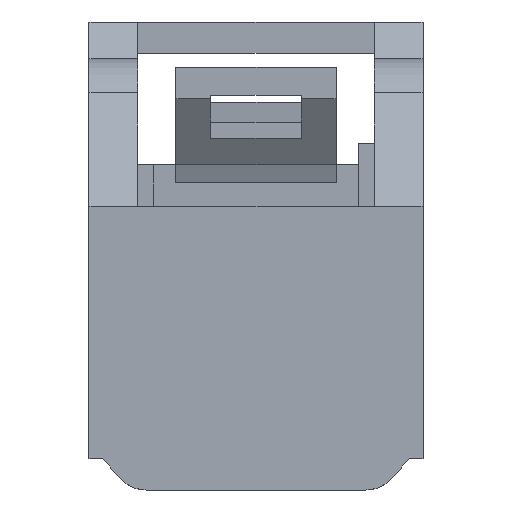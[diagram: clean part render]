
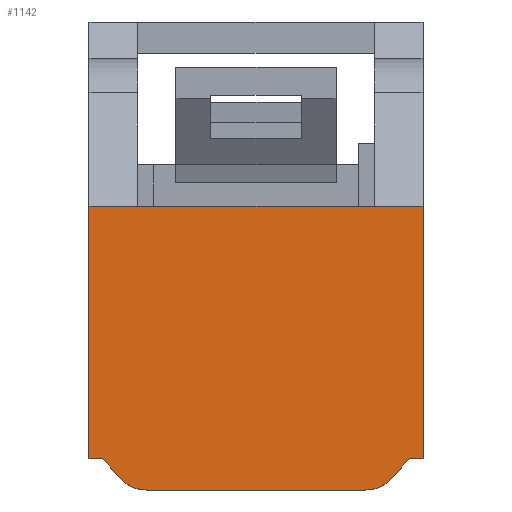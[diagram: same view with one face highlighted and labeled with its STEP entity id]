
A CAD part, left-side view. The second image highlights one B-rep face of the part: STEP entity #1142.
In plain terms, the highlighted planar face has unit normal (-1, 0, 0).
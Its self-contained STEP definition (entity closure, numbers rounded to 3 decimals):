
#1067=AXIS2_PLACEMENT_3D('Plane Axis2P3D',#1064,#1065,#1066) ;
#1071=AXIS2_PLACEMENT_3D('Circle Axis2P3D',#1069,#1070,$) ;
#1118=AXIS2_PLACEMENT_3D('Circle Axis2P3D',#1116,#1117,$) ;
#256=CARTESIAN_POINT('Vertex',(-23.4,-3.8,-3.275)) ;
#259=CARTESIAN_POINT('Line Origine',(-23.4,-3.606,-3.275)) ;
#263=CARTESIAN_POINT('Vertex',(-23.4,-3.411,-3.275)) ;
#284=CARTESIAN_POINT('Vertex',(-23.4,5.411,-3.275)) ;
#287=CARTESIAN_POINT('Line Origine',(-23.4,5.606,-3.275)) ;
#291=CARTESIAN_POINT('Vertex',(-23.4,5.8,-3.275)) ;
#1007=CARTESIAN_POINT('Line Origine',(-23.4,-3.8,0.35)) ;
#1011=CARTESIAN_POINT('Vertex',(-23.4,-3.8,3.975)) ;
#1064=CARTESIAN_POINT('Axis2P3D Location',(-23.4,0.,3.975)) ;
#1069=CARTESIAN_POINT('Axis2P3D Location',(-23.4,-2.155,-3.175)) ;
#1073=CARTESIAN_POINT('Vertex',(-23.4,-2.898,-3.845)) ;
#1075=CARTESIAN_POINT('Vertex',(-23.4,-2.155,-4.175)) ;
#1078=CARTESIAN_POINT('Line Origine',(-23.4,-3.155,-3.56)) ;
#1083=CARTESIAN_POINT('Line Origine',(-23.4,-3.1,3.975)) ;
#1087=CARTESIAN_POINT('Vertex',(-23.4,-2.4,3.975)) ;
#1090=CARTESIAN_POINT('Line Origine',(-23.4,1.,3.975)) ;
#1094=CARTESIAN_POINT('Vertex',(-23.4,4.4,3.975)) ;
#1097=CARTESIAN_POINT('Line Origine',(-23.4,5.1,3.975)) ;
#1101=CARTESIAN_POINT('Vertex',(-23.4,5.8,3.975)) ;
#1104=CARTESIAN_POINT('Line Origine',(-23.4,5.8,0.35)) ;
#1109=CARTESIAN_POINT('Line Origine',(-23.4,5.155,-3.56)) ;
#1113=CARTESIAN_POINT('Vertex',(-23.4,4.898,-3.845)) ;
#1116=CARTESIAN_POINT('Axis2P3D Location',(-23.4,4.155,-3.175)) ;
#1120=CARTESIAN_POINT('Vertex',(-23.4,4.155,-4.175)) ;
#1123=CARTESIAN_POINT('Line Origine',(-23.4,1.,-4.175)) ;
#260=DIRECTION('Vector Direction',(0.,1.,0.)) ;
#288=DIRECTION('Vector Direction',(0.,1.,0.)) ;
#1008=DIRECTION('Vector Direction',(0.,0.,1.)) ;
#1065=DIRECTION('Axis2P3D Direction',(1.,-0.,0.)) ;
#1066=DIRECTION('Axis2P3D XDirection',(0.,0.,-1.)) ;
#1070=DIRECTION('Axis2P3D Direction',(1.,-0.,0.)) ;
#1079=DIRECTION('Vector Direction',(0.,-0.67,0.743)) ;
#1084=DIRECTION('Vector Direction',(0.,1.,0.)) ;
#1091=DIRECTION('Vector Direction',(0.,1.,0.)) ;
#1098=DIRECTION('Vector Direction',(0.,1.,0.)) ;
#1105=DIRECTION('Vector Direction',(0.,0.,1.)) ;
#1110=DIRECTION('Vector Direction',(0.,0.67,0.743)) ;
#1117=DIRECTION('Axis2P3D Direction',(1.,-0.,0.)) ;
#1124=DIRECTION('Vector Direction',(0.,1.,0.)) ;
#261=VECTOR('Line Direction',#260,1.) ;
#289=VECTOR('Line Direction',#288,1.) ;
#1009=VECTOR('Line Direction',#1008,1.) ;
#1080=VECTOR('Line Direction',#1079,1.) ;
#1085=VECTOR('Line Direction',#1084,1.) ;
#1092=VECTOR('Line Direction',#1091,1.) ;
#1099=VECTOR('Line Direction',#1098,1.) ;
#1106=VECTOR('Line Direction',#1105,1.) ;
#1111=VECTOR('Line Direction',#1110,1.) ;
#1125=VECTOR('Line Direction',#1124,1.) ;
#1129=ORIENTED_EDGE('',*,*,#1077,.F.) ;
#1130=ORIENTED_EDGE('',*,*,#1082,.T.) ;
#1131=ORIENTED_EDGE('',*,*,#265,.F.) ;
#1132=ORIENTED_EDGE('',*,*,#1013,.T.) ;
#1133=ORIENTED_EDGE('',*,*,#1089,.T.) ;
#1134=ORIENTED_EDGE('',*,*,#1096,.T.) ;
#1135=ORIENTED_EDGE('',*,*,#1103,.T.) ;
#1136=ORIENTED_EDGE('',*,*,#1108,.F.) ;
#1137=ORIENTED_EDGE('',*,*,#293,.F.) ;
#1138=ORIENTED_EDGE('',*,*,#1115,.F.) ;
#1139=ORIENTED_EDGE('',*,*,#1122,.F.) ;
#1140=ORIENTED_EDGE('',*,*,#1127,.F.) ;
#1142=ADVANCED_FACE('\X2\FF8AFF9FFF70FF82\X0\ \X2\FF8EFF9EFF83FF9EFF68FF70\X0\',(#1141),#1068,.F.) ;
#1072=CIRCLE('generated circle',#1071,1.) ;
#1119=CIRCLE('generated circle',#1118,1.) ;
#265=EDGE_CURVE('',#257,#264,#262,.T.) ;
#293=EDGE_CURVE('',#285,#292,#290,.T.) ;
#1013=EDGE_CURVE('',#257,#1012,#1010,.T.) ;
#1077=EDGE_CURVE('',#1074,#1076,#1072,.T.) ;
#1082=EDGE_CURVE('',#1074,#264,#1081,.T.) ;
#1089=EDGE_CURVE('',#1012,#1088,#1086,.T.) ;
#1096=EDGE_CURVE('',#1088,#1095,#1093,.T.) ;
#1103=EDGE_CURVE('',#1095,#1102,#1100,.T.) ;
#1108=EDGE_CURVE('',#292,#1102,#1107,.T.) ;
#1115=EDGE_CURVE('',#1114,#285,#1112,.T.) ;
#1122=EDGE_CURVE('',#1121,#1114,#1119,.T.) ;
#1127=EDGE_CURVE('',#1076,#1121,#1126,.T.) ;
#1128=EDGE_LOOP('',(#1129,#1130,#1131,#1132,#1133,#1134,#1135,#1136,#1137,#1138,#1139,#1140)) ;
#1141=FACE_OUTER_BOUND('',#1128,.T.) ;
#262=LINE('Line',#259,#261) ;
#290=LINE('Line',#287,#289) ;
#1010=LINE('Line',#1007,#1009) ;
#1081=LINE('Line',#1078,#1080) ;
#1086=LINE('Line',#1083,#1085) ;
#1093=LINE('Line',#1090,#1092) ;
#1100=LINE('Line',#1097,#1099) ;
#1107=LINE('Line',#1104,#1106) ;
#1112=LINE('Line',#1109,#1111) ;
#1126=LINE('Line',#1123,#1125) ;
#1068=PLANE('',#1067) ;
#257=VERTEX_POINT('',#256) ;
#264=VERTEX_POINT('',#263) ;
#285=VERTEX_POINT('',#284) ;
#292=VERTEX_POINT('',#291) ;
#1012=VERTEX_POINT('',#1011) ;
#1074=VERTEX_POINT('',#1073) ;
#1076=VERTEX_POINT('',#1075) ;
#1088=VERTEX_POINT('',#1087) ;
#1095=VERTEX_POINT('',#1094) ;
#1102=VERTEX_POINT('',#1101) ;
#1114=VERTEX_POINT('',#1113) ;
#1121=VERTEX_POINT('',#1120) ;
